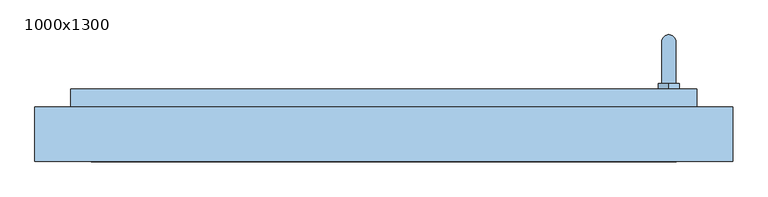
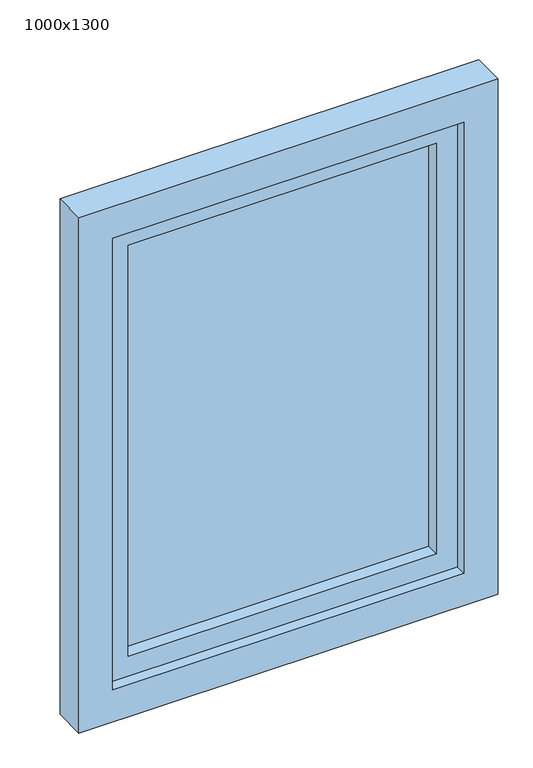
"""IFC4 building model written with IfcOpenShell, lengths in millimetres: window geometry, Jednokridlove rovne : 1000x1300."""

from ifc_helpers import new_model, si_unit, point, frame, frame_2d, origin, place, context, project, spatial, polyline, circle_curve, ellipse_curve, trimmed, segment, composite_curve, outline, extrude, faceted_brep, source, transform, mapped, element, save
from ifc_brep_helpers import plane_surface, cylinder_surface, advanced_brep


def window_1000x1300_138def9d(model_context):
    return source(origin(), model_context, "Body", "SolidModel", [
        advanced_brep(
        [(418.5, -118.0, 1550.0), (398.5, -118.0, 1550.0), (398.5, -58.0, 1550.0), (418.5, -58.0, 1550.0), (418.5, -58.0, 1425.0), (398.5, -58.0, 1425.0)],
        [
            (0, 1, circle_curve(frame((408.5, -118.0, 1550.0), z_axis=(0.0, -1.0, 0.0), x_axis=(-1.0, 0.0, 0.0)), 10.0)),
            (1, 0, circle_curve(frame((408.5, -118.0, 1550.0), z_axis=(0.0, -1.0, 0.0), x_axis=(-1.0, 0.0, 0.0)), 10.0)),
            (1, 2),
            (2, 3, ellipse_curve(frame((408.5, -58.0, 1550.0), z_axis=(0.0, -0.7071067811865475, 0.7071067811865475), x_axis=(0.0, -0.7071067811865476, -0.7071067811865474)), 14.1421356, 10.0)),
            (3, 0),
            (3, 2, ellipse_curve(frame((408.5, -58.0, 1550.0), z_axis=(0.0, -0.7071067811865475, 0.7071067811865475), x_axis=(0.0, -0.7071067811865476, -0.7071067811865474)), 14.1421356, 10.0)),
            (4, 5, circle_curve(frame((408.5, -58.0, 1425.0), z_axis=(0.0, 0.0, -1.0), x_axis=(-1.0, 0.0, 0.0)), 10.0)),
            (5, 4, circle_curve(frame((408.5, -58.0, 1425.0), z_axis=(0.0, 0.0, -1.0), x_axis=(-1.0, 0.0, 0.0)), 10.0)),
            (2, 5),
            (4, 3),
        ],
        [
            plane_surface(frame((408.5, -118.0, 1550.0), z_axis=(0.0, -1.0, 0.0), x_axis=(1.0, 0.0, 0.0))),
            cylinder_surface(frame((408.5, -118.0, 1550.0), z_axis=(0.0, -1.0, 0.0), x_axis=(-1.0, 0.0, 0.0)), 10.0),
            plane_surface(frame((408.5, -58.0, 1425.0), z_axis=(0.0, 0.0, -1.0), x_axis=(1.0, 0.0, 0.0))),
            cylinder_surface(frame((408.5, -58.0, 1550.0), z_axis=(0.0, 0.0, 1.0), x_axis=(-1.0, 0.0, 0.0)), 10.0),
        ],
        [
            (0, [[1, 2]]),
            (1, [[3, 4, 5, -2]]),
            (1, [[-5, 6, -3, -1]]),
            (2, [[7, 8]]),
            (3, [[9, -7, 10, -4]]),
            (3, [[-10, -8, -9, -6]]),
        ],
    ),
        extrude(outline(composite_curve([segment(trimmed(circle_curve(frame_2d((1560.0, 408.5)), 15.0), [point((1560.0, 423.5))], [point((1575.0, 408.5))], False, "CARTESIAN"), True, "CONTINUOUS"), segment(trimmed(circle_curve(frame_2d((1560.0, 408.5)), 15.0), [point((1575.0, 408.5))], [point((1560.0, 393.5))], False, "CARTESIAN"), True, "CONTINUOUS"), segment(polyline([(1560.0, 393.5), (1540.0, 393.5)]), True, "CONTINUOUS"), segment(trimmed(circle_curve(frame_2d((1540.0, 408.5)), 15.0), [point((1540.0, 393.5))], [point((1525.0, 408.5))], False, "CARTESIAN"), True, "CONTINUOUS"), segment(trimmed(circle_curve(frame_2d((1540.0, 408.5)), 15.0), [point((1525.0, 408.5))], [point((1540.0, 423.5))], False, "CARTESIAN"), True, "CONTINUOUS"), segment(polyline([(1540.0, 423.5), (1560.0, 423.5)]), True, "CONTINUOUS")], self_intersect=False)), frame((0.0, -126.0, 0.0), z_axis=(0.0, 1.0, 0.0), x_axis=(0.0, 0.0, 1.0)), (0.0, 0.0, 1.0), 8.0),
        extrude(outline(polyline([(2200.0, -500.0), (900.0, -500.0), (900.0, 500.0), (2200.0, 500.0), (2200.0, -500.0)]), holes=[polyline([(981.0, -419.0), (2119.0, -419.0), (2119.0, 419.0), (981.0, 419.0), (981.0, -419.0)])]), frame((0.0, -230.0, 0.0), z_axis=(0.0, 1.0, 0.0), x_axis=(0.0, 0.0, 1.0)), (0.0, 0.0, 1.0), 78.0),
        extrude(outline(polyline([(368.0, -157.5), (368.0, -172.5), (-368.0, -172.5), (-368.0, -157.5), (368.0, -157.5)])), frame((0.0, 0.0, 1032.0), z_axis=(0.0, 0.0, 1.0), x_axis=(1.0, 0.0, 0.0)), (0.0, 0.0, 1.0), 1036.0),
        faceted_brep([(-419.0, -204.0, 981.0), (-419.0, -204.0, 2119.0), (-419.0, -152.0, 2119.0), (-419.0, -152.0, 981.0), (-368.0, -126.0, 1032.0), (-368.0, -126.0, 2068.0), (-368.0, -204.0, 2068.0), (-368.0, -204.0, 1032.0), (-449.0, -152.0, 951.0), (-449.0, -152.0, 2149.0), (-449.0, -126.0, 2149.0), (-449.0, -126.0, 951.0), (419.0, -204.0, 2119.0), (419.0, -152.0, 2119.0), (368.0, -126.0, 2068.0), (368.0, -204.0, 2068.0), (449.0, -152.0, 2149.0), (449.0, -126.0, 2149.0), (419.0, -204.0, 981.0), (419.0, -152.0, 981.0), (368.0, -126.0, 1032.0), (368.0, -204.0, 1032.0), (449.0, -152.0, 951.0), (449.0, -126.0, 951.0)], [[[0, 1, 2, 3]], [[4, 5, 6, 7]], [[8, 9, 10, 11]], [[1, 12, 13, 2]], [[5, 14, 15, 6]], [[9, 16, 17, 10]], [[12, 18, 19, 13]], [[14, 20, 21, 15]], [[16, 22, 23, 17]], [[18, 0, 3, 19]], [[1, 0, 18, 12], [7, 6, 15, 21]], [[20, 4, 7, 21]], [[11, 10, 17, 23], [5, 4, 20, 14]], [[22, 8, 11, 23]], [[9, 8, 22, 16], [3, 2, 13, 19]]]),
    ])


if __name__ == "__main__":
    model = new_model("IFC4")
    model_context = context("Model", 3, world=origin())
    ifc_project = project(units=[si_unit("LENGTHUNIT", "METRE", prefix="MILLI")], contexts=[model_context])
    site = spatial("IfcSite", under=ifc_project)
    building = spatial("IfcBuilding", under=site)
    placement = place(None, origin())
    window_1000x1300_shape = window_1000x1300_138def9d(model_context)
    element("IfcWindow", 1, ObjectType="Jednokridlove rovne : 1000x1300", at=placement, inside=building, context=model_context, shape_type="MappedRepresentation", body=[
        mapped(window_1000x1300_shape, transform((0.0, 0.0, 0.0), x_axis=(1.0, 0.0, 0.0), y_axis=(0.0, 1.0, 0.0), z_axis=(0.0, 0.0, 1.0))),
    ])
    save(model, "model.ifc")
